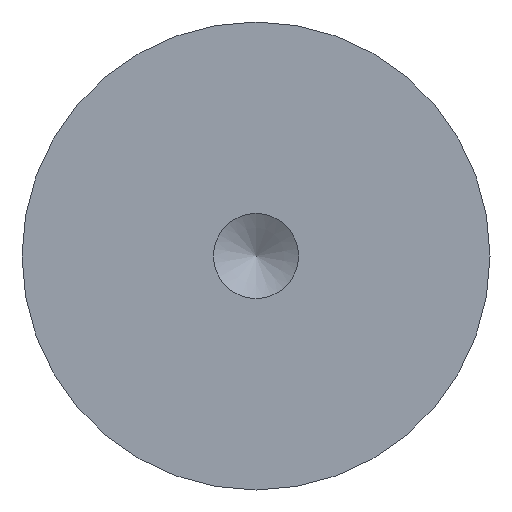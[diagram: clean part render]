
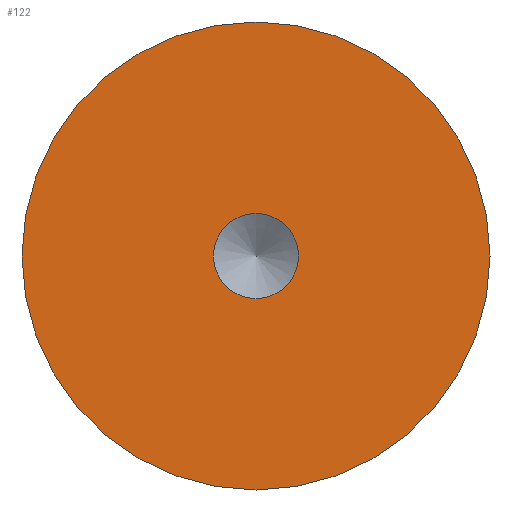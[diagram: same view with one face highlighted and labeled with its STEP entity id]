
A CAD part, front view. The second image highlights one B-rep face of the part: STEP entity #122.
In plain terms, the highlighted planar face has unit normal (0, -1, 0).
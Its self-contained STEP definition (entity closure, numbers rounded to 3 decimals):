
#122 = ADVANCED_FACE( '', ( #242, #243 ), #244, .F. );
#242 = FACE_BOUND( '', #391, .T. );
#243 = FACE_OUTER_BOUND( '', #392, .T. );
#244 = PLANE( '', #393 );
#391 = EDGE_LOOP( '', ( #769 ) );
#392 = EDGE_LOOP( '', ( #770 ) );
#393 = AXIS2_PLACEMENT_3D( '', #771, #772, #773 );
#769 = ORIENTED_EDGE( '', *, *, #1183, .F. );
#770 = ORIENTED_EDGE( '', *, *, #1184, .T. );
#771 = CARTESIAN_POINT( '', ( 16.5, 0., 0. ) );
#772 = DIRECTION( '', ( 0., 1., 0. ) );
#773 = DIRECTION( '', ( 0., 0., 1. ) );
#1183 = EDGE_CURVE( '', #1492, #1492, #1493, .T. );
#1184 = EDGE_CURVE( '', #1494, #1494, #1495, .T. );
#1492 = VERTEX_POINT( '', #2053 );
#1493 = CIRCLE( '', #2054, 3. );
#1494 = VERTEX_POINT( '', #2055 );
#1495 = CIRCLE( '', #2056, 16.5 );
#2053 = CARTESIAN_POINT( '', ( 0., 0., -3. ) );
#2054 = AXIS2_PLACEMENT_3D( '', #2318, #2319, #2320 );
#2055 = CARTESIAN_POINT( '', ( 0., 0., -16.5 ) );
#2056 = AXIS2_PLACEMENT_3D( '', #2321, #2322, #2323 );
#2318 = CARTESIAN_POINT( '', ( 0., 0., 0. ) );
#2319 = DIRECTION( '', ( 0., -1., 0. ) );
#2320 = DIRECTION( '', ( 0., 0., -1. ) );
#2321 = CARTESIAN_POINT( '', ( 0., 0., 0. ) );
#2322 = DIRECTION( '', ( 0., -1., 0. ) );
#2323 = DIRECTION( '', ( 0., 0., -1. ) );
